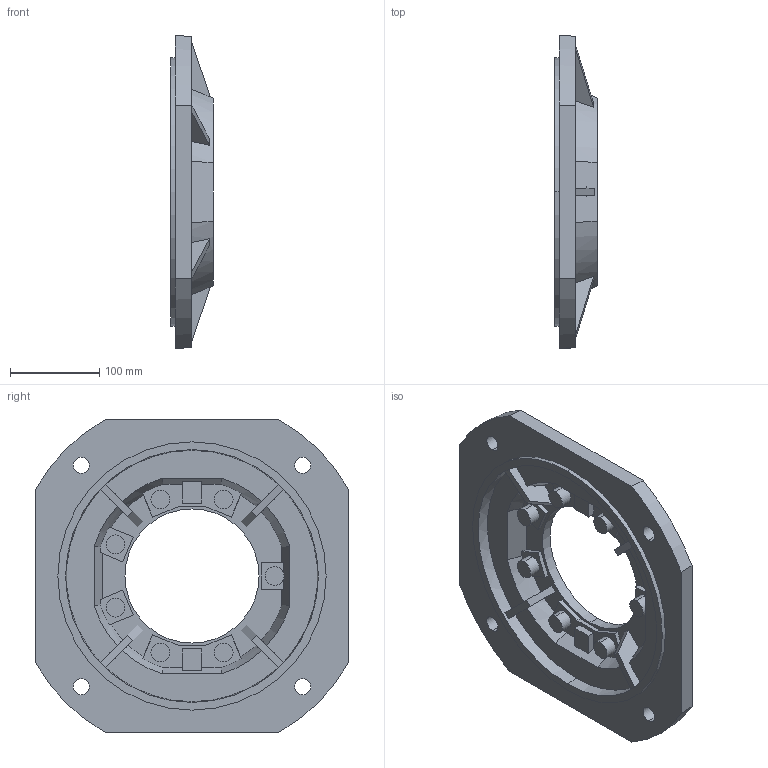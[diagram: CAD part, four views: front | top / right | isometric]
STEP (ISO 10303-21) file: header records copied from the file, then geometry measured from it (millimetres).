
FILE_DESCRIPTION(/* description */ (''),/* implementation_level */ '2;1');
FILE_NAME(/* name */ '1_FLANGIA (CAMPANA) LATERALE FA H102',/* time_stamp */ '2025-10-31T14:19:10+01:00',/* author */ (''),/* organization */ (''),/* preprocessor_version */ 'ST-DEVELOPER v19.2',/* originating_system */ 'Rhino 8.23',/* authorisation */ '');
FILE_SCHEMA (('CONFIG_CONTROL_DESIGN'));
Length unit declared in the file: millimetre
Products named in the file (2): Document; FU102FA-29
Bounding box: 47.5 x 350 x 350 mm (x, y, z)
Volume: 1597463.1 mm3; surface area: 280426.5 mm2
Topology: 1 solids, 1 shells, 160 faces, 459 edges, 306 vertices
Faces by surface type: plane 112, cylinder 30, bspline 18
Entity records: 6976 total; most frequent: CARTESIAN_POINT 1958, ORIENTED_EDGE 918, EDGE_CURVE 459, DIRECTION 384, B_SPLINE_CURVE_WITH_KNOTS 333, VERTEX_POINT 306, AXIS2_PLACEMENT_3D 263, EDGE_LOOP 183
